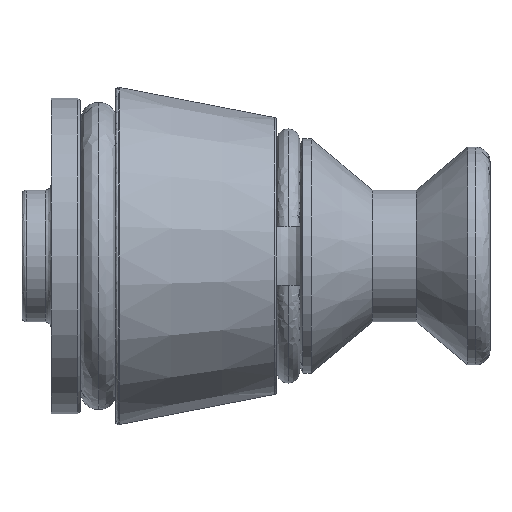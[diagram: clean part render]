
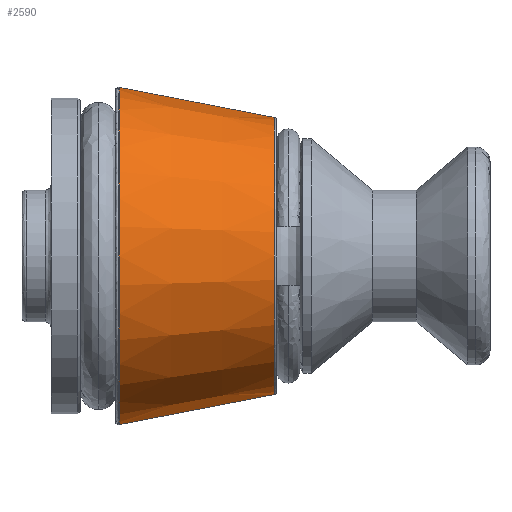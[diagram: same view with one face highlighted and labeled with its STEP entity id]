
A CAD part, left-side view. The second image highlights one B-rep face of the part: STEP entity #2590.
In plain terms, the highlighted conical face has half-angle 11 degrees and reference radius 5.763 mm.
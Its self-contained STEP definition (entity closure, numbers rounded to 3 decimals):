
#71 = AXIS2_PLACEMENT_3D ( 'NONE', #2481, #2487, #2460 ) ;
#236 = VERTEX_POINT ( 'NONE', #1642 ) ;
#398 = EDGE_CURVE ( 'NONE', #2171, #2155, #1495, .T. ) ;
#459 = EDGE_CURVE ( 'NONE', #2155, #236, #1156, .T. ) ;
#477 = EDGE_CURVE ( 'NONE', #236, #2151, #2165, .T. ) ;
#629 = CARTESIAN_POINT ( 'NONE',  ( 0., 12.681, -5.763 ) ) ;
#709 = ORIENTED_EDGE ( 'NONE', *, *, #2179, .F. ) ;
#745 = CARTESIAN_POINT ( 'NONE',  ( 0., 7.381, 4.733 ) ) ;
#758 = CARTESIAN_POINT ( 'NONE',  ( 0., 7.381, -4.733 ) ) ;
#769 = CARTESIAN_POINT ( 'NONE',  ( 0., 12.681, -5.763 ) ) ;
#798 = DIRECTION ( 'NONE',  ( 0., 0.982, -0.191 ) ) ;
#846 = AXIS2_PLACEMENT_3D ( 'NONE', #2092, #2294, #2334 ) ;
#939 = DIRECTION ( 'NONE',  ( 0., 0., 1. ) ) ;
#940 = DIRECTION ( 'NONE',  ( 0., -1., 0. ) ) ;
#947 = CARTESIAN_POINT ( 'NONE',  ( 0., 12.681, 0. ) ) ;
#952 = EDGE_LOOP ( 'NONE', ( #709, #2119, #1070, #2426 ) ) ;
#1070 = ORIENTED_EDGE ( 'NONE', *, *, #459, .T. ) ;
#1138 = CONICAL_SURFACE ( 'NONE', #846, 5.763, 0.192 ) ;
#1156 = LINE ( 'NONE', #2269, #1192 ) ;
#1192 = VECTOR ( 'NONE', #2251, 1000. ) ;
#1390 = AXIS2_PLACEMENT_3D ( 'NONE', #947, #940, #939 ) ;
#1495 = CIRCLE ( 'NONE', #71, 4.733 ) ;
#1642 = CARTESIAN_POINT ( 'NONE',  ( 0., 12.681, 5.763 ) ) ;
#2092 = CARTESIAN_POINT ( 'NONE',  ( 0., 12.681, 0. ) ) ;
#2119 = ORIENTED_EDGE ( 'NONE', *, *, #398, .T. ) ;
#2145 = FACE_OUTER_BOUND ( 'NONE', #952, .T. ) ;
#2151 = VERTEX_POINT ( 'NONE', #629 ) ;
#2155 = VERTEX_POINT ( 'NONE', #745 ) ;
#2162 = LINE ( 'NONE', #769, #2186 ) ;
#2165 = CIRCLE ( 'NONE', #1390, 5.763 ) ;
#2171 = VERTEX_POINT ( 'NONE', #758 ) ;
#2179 = EDGE_CURVE ( 'NONE', #2171, #2151, #2162, .T. ) ;
#2186 = VECTOR ( 'NONE', #798, 1000. ) ;
#2251 = DIRECTION ( 'NONE',  ( 0., 0.982, 0.191 ) ) ;
#2269 = CARTESIAN_POINT ( 'NONE',  ( 0., 12.681, 5.763 ) ) ;
#2294 = DIRECTION ( 'NONE',  ( 0., 1., 0. ) ) ;
#2334 = DIRECTION ( 'NONE',  ( 0., 0., 1. ) ) ;
#2426 = ORIENTED_EDGE ( 'NONE', *, *, #477, .T. ) ;
#2460 = DIRECTION ( 'NONE',  ( 0., 0., 1. ) ) ;
#2481 = CARTESIAN_POINT ( 'NONE',  ( 0., 7.381, 0. ) ) ;
#2487 = DIRECTION ( 'NONE',  ( 0., 1., 0. ) ) ;
#2590 = ADVANCED_FACE ( 'NONE', ( #2145 ), #1138, .T. ) ;
